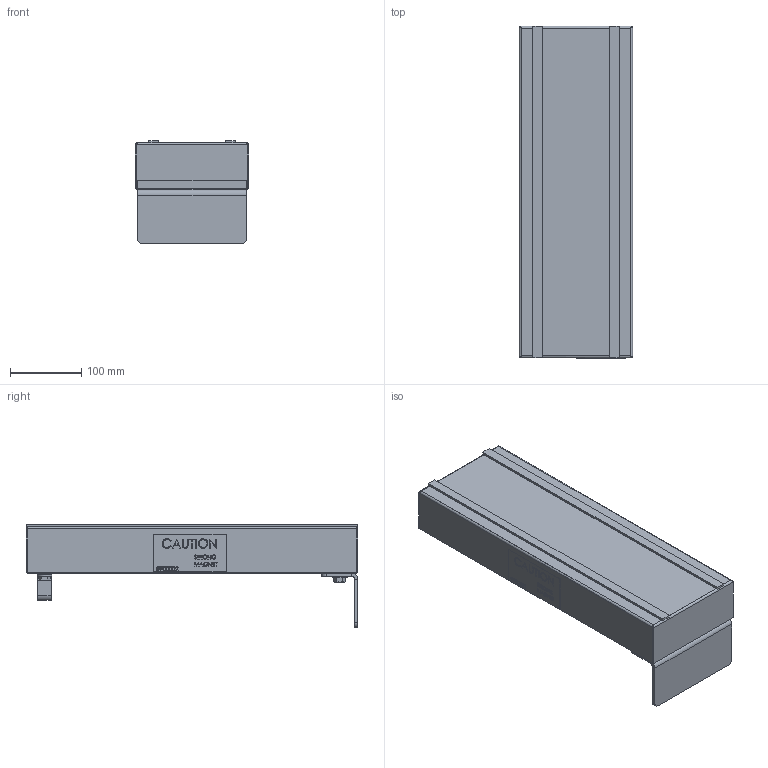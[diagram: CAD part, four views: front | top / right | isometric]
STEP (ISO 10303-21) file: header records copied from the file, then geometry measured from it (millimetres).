
FILE_DESCRIPTION (( 'STEP AP203' ), '1' );
FILE_NAME ('MGF18.STEP', '2017-12-20T15:35:03', ( 'admin' ), ( '' ), 'SwSTEP 2.0', 'SolidWorks 2015', '' );
FILE_SCHEMA (( 'CONFIG_CONTROL_DESIGN' ));
Products named in the file (1): MGF18
Bounding box: 159.26 x 465.39 x 144.15 mm (x, y, z)
Volume: 2028942.1 mm3; surface area: 669368.9 mm2
Topology: 19 solids, 19 shells, 2342 faces, 5930 edges, 3844 vertices
Faces by surface type: plane 1307, bspline 675, cylinder 176, cone 176, torus 8
Entity records: 110969 total; most frequent: CARTESIAN_POINT 59014, ORIENTED_EDGE 11860, DIRECTION 8264, EDGE_CURVE 5930, VECTOR 4016, LINE 4016, VERTEX_POINT 3844, EDGE_LOOP 2592
